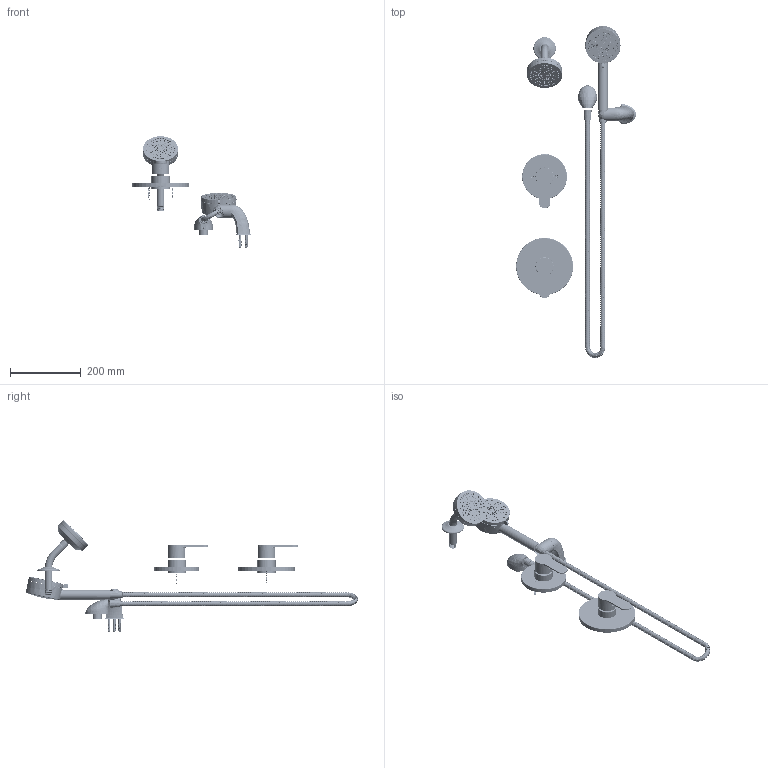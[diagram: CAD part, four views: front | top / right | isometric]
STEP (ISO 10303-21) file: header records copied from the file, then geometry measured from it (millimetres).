
FILE_DESCRIPTION (( 'STEP AP214' ), '1' );
FILE_NAME ('6795TRM.STEP', '2025-01-15T09:15:20', ( '' ), ( '' ), 'SwSTEP 2.0', 'SolidWorks 2023', '' );
FILE_SCHEMA (( 'AUTOMOTIVE_DESIGN' ));
Products named in the file (1): 6795TRM
Bounding box: 338.77 x 938.92 x 315.54 mm (x, y, z)
Surface area: 420792.1 mm2 (no closed solid volume)
Topology: 0 solids, 493 shells, 2301 faces, 8255 edges, 6147 vertices
Faces by surface type: cone 601, cylinder 563, bspline 550, plane 449, torus 120, sphere 18
Entity records: 358700 total; most frequent: CARTESIAN_POINT 298319, ORIENTED_EDGE 11687, DIRECTION 10024, EDGE_CURVE 8240, VERTEX_POINT 6144, AXIS2_PLACEMENT_3D 3923, B_SPLINE_CURVE_WITH_KNOTS 3544, EDGE_LOOP 2806
